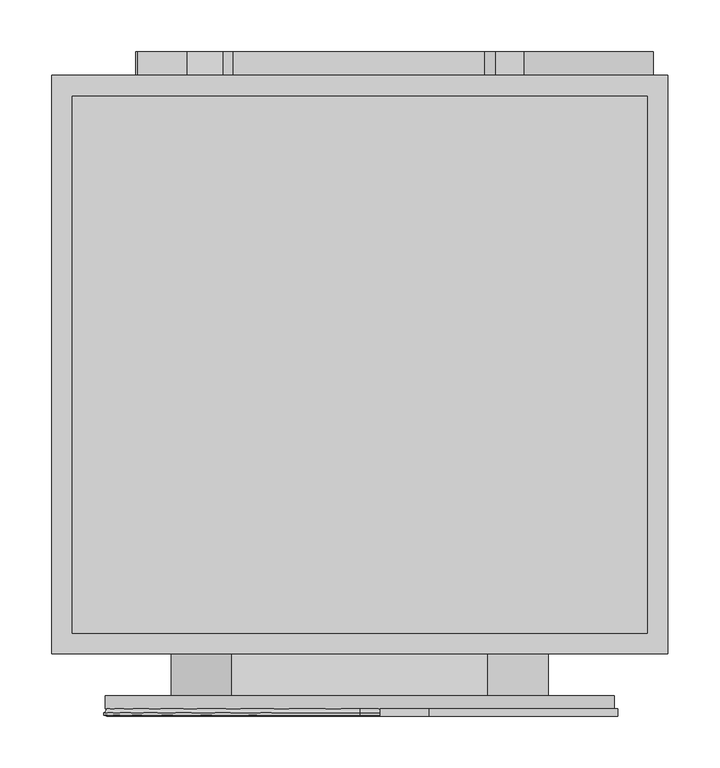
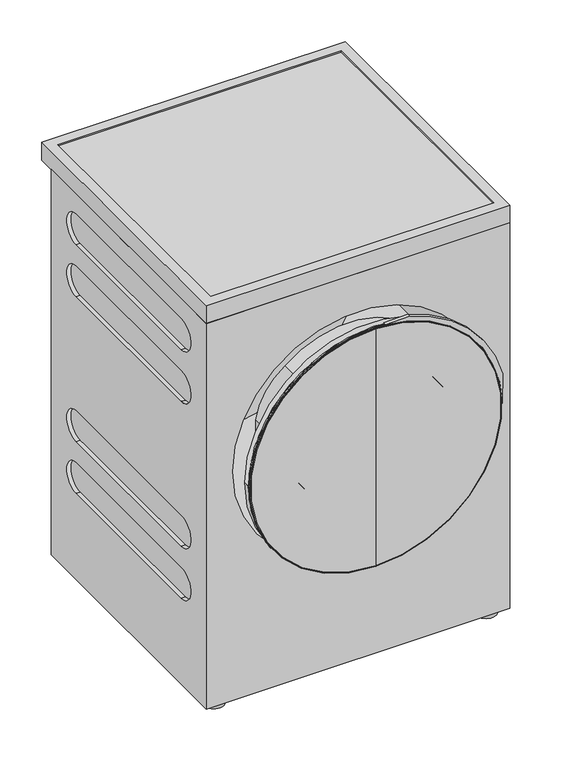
"""IFC4 building model written with IfcOpenShell, lengths in millimetres: proxy geometry, 12695720_AUS_TQ1000WP_LW : 12Q10001_AUS_12695720_TQ1000WP_LW."""

from ifc_helpers import new_model, si_unit, point, frame, frame_2d, origin, origin_with_axes, place, context, project, spatial, polyline, circle_curve, ellipse_curve, trimmed, segment, composite_curve, outline, extrude, source, transform, mapped, element, save
from ifc_brep_helpers import plane_surface, cylinder_surface, revolved_surface, advanced_brep


def specialty_equipment_69af399f(model_context):
    return source(origin(), model_context, "Body", "SolidModel", [
        advanced_brep(
        [(298.0, -582.3, 813.1000123), (298.0, -582.3, 13.4000001), (298.0, -55.0, 13.4000001), (298.0, -55.0, 813.1000123), (298.0, -499.7686844, 708.2163696), (298.0, -499.7686844, 771.6257324), (298.0, -139.0, 771.6257324), (298.0, -139.0, 708.2163696), (298.0, -499.7686844, 600.3451244), (298.0, -499.7686844, 663.3451244), (298.0, -139.0, 663.3451244), (298.0, -139.0, 600.3451244), (298.0, -499.7686844, 300.0501771), (298.0, -499.7686844, 363.4595399), (298.0, -139.0, 363.4595399), (298.0, -139.0, 300.0501771), (298.0, -499.7686844, 255.704727), (298.0, -139.0, 255.704727), (298.0, -139.0, 192.2953642), (298.0, -499.7686844, 192.2953642), (-298.0, -582.3, 813.1000123), (-298.0, -55.0, 813.1000123), (-298.0, -55.0, 13.4000001), (-298.0, -582.3, 13.4000001), (-298.0, -497.9927606, 771.5093751), (-298.0, -497.9927606, 708.1000123), (-298.0, -140.0, 708.1000123), (-298.0, -140.0, 771.5093751), (-298.0, -497.9927606, 663.7047093), (-298.0, -497.9927606, 600.2953466), (-298.0, -140.0, 600.2953466), (-298.0, -140.0, 663.7047093), (-298.0, -497.9927606, 363.5093178), (-298.0, -497.9927606, 300.099955), (-298.0, -140.0, 300.099955), (-298.0, -140.0, 363.5093178), (-298.0, -497.9927606, 255.704727), (-298.0, -497.9927606, 192.2953642), (-298.0, -140.0, 192.2953642), (-298.0, -140.0, 255.704727), (246.0, -582.3, 487.4), (-246.0, -582.3, 487.4), (-246.0, -154.1771988, 487.4), (246.0, -154.1771988, 487.4), (-289.8140699, -497.9927606, 771.5093751), (-289.8140699, -140.0, 771.5093751), (-289.8140699, -140.0, 708.1000123), (-289.8140699, -497.9927606, 708.1000123), (-289.8140699, -497.9927606, 663.7047093), (-289.8140699, -140.0, 663.7047093), (-289.8140699, -140.0, 600.2953466), (-289.8140699, -497.9927606, 600.2953466), (-289.8140699, -497.9927606, 363.5093178), (-289.8140699, -140.0, 363.5093178), (-289.8140699, -140.0, 300.099955), (-289.8140699, -497.9927606, 300.099955), (-289.8140699, -497.9927606, 255.704727), (-289.8140699, -140.0, 255.704727), (-289.8140699, -140.0, 192.2953642), (-289.8140699, -497.9927606, 192.2953642), (289.8140699, -499.7686844, 771.6257324), (289.8140699, -499.7686844, 708.2163696), (289.8140699, -139.0, 708.2163696), (289.8140699, -139.0, 771.6257324), (289.8140699, -499.7686844, 663.3451244), (289.8140699, -499.7686844, 600.3451244), (289.8140699, -139.0, 600.3451244), (289.8140699, -139.0, 663.3451244), (289.8140699, -499.7686844, 363.4595399), (289.8140699, -499.7686844, 300.0501771), (289.8140699, -139.0, 300.0501771), (289.8140699, -139.0, 363.4595399), (289.8140699, -499.7686844, 255.704727), (289.8140699, -499.7686844, 192.2953642), (289.8140699, -139.0, 192.2953642), (289.8140699, -139.0, 255.704727)],
        [
            (0, 1),
            (1, 2),
            (2, 3),
            (3, 0),
            (4, 5, circle_curve(frame((298.0, -499.7686844, 739.921051), z_axis=(-1.0, 0.0, 0.0), x_axis=(0.0, 1.0, 0.0)), 31.7046814)),
            (5, 6),
            (6, 7, circle_curve(frame((298.0, -139.0, 739.921051), z_axis=(-1.0, 0.0, 0.0), x_axis=(0.0, 1.0, 0.0)), 31.7046814)),
            (7, 4),
            (8, 9, circle_curve(frame((298.0, -499.7686844, 631.8451244), z_axis=(-1.0, 0.0, 0.0), x_axis=(0.0, 1.0, 0.0)), 31.5)),
            (9, 10),
            (10, 11, circle_curve(frame((298.0, -139.0, 631.8451244), z_axis=(-1.0, 0.0, 0.0), x_axis=(0.0, 1.0, 0.0)), 31.5)),
            (11, 8),
            (12, 13, circle_curve(frame((298.0, -499.7686844, 331.7548585), z_axis=(-1.0, 0.0, 0.0), x_axis=(0.0, 1.0, 0.0)), 31.7046814)),
            (13, 14),
            (14, 15, circle_curve(frame((298.0, -139.0, 331.7548585), z_axis=(-1.0, 0.0, 0.0), x_axis=(0.0, 1.0, 0.0)), 31.7046814)),
            (15, 12),
            (16, 17),
            (17, 18, circle_curve(frame((298.0, -139.0, 224.0000456), z_axis=(-1.0, 0.0, 0.0), x_axis=(0.0, 1.0, 0.0)), 31.7046814)),
            (18, 19),
            (19, 16, circle_curve(frame((298.0, -499.7686844, 224.0000456), z_axis=(-1.0, 0.0, 0.0), x_axis=(0.0, 1.0, 0.0)), 31.7046814)),
            (20, 21),
            (21, 22),
            (22, 23),
            (23, 20),
            (24, 25, circle_curve(frame((-298.0, -497.9927606, 739.8046937), z_axis=(1.0, 0.0, 0.0), x_axis=(0.0, 1.0, 0.0)), 31.7046814)),
            (25, 26),
            (26, 27, circle_curve(frame((-298.0, -140.0, 739.8046937), z_axis=(1.0, 0.0, 0.0), x_axis=(0.0, 1.0, 0.0)), 31.7046814)),
            (27, 24),
            (28, 29, circle_curve(frame((-298.0, -497.9927606, 632.000028), z_axis=(1.0, 0.0, 0.0), x_axis=(0.0, 1.0, 0.0)), 31.7046814)),
            (29, 30),
            (30, 31, circle_curve(frame((-298.0, -140.0, 632.000028), z_axis=(1.0, 0.0, 0.0), x_axis=(0.0, 1.0, 0.0)), 31.7046814)),
            (31, 28),
            (32, 33, circle_curve(frame((-298.0, -497.9927606, 331.8046364), z_axis=(1.0, 0.0, 0.0), x_axis=(0.0, 1.0, 0.0)), 31.7046814)),
            (33, 34),
            (34, 35, circle_curve(frame((-298.0, -140.0, 331.8046364), z_axis=(1.0, 0.0, 0.0), x_axis=(0.0, 1.0, 0.0)), 31.7046814)),
            (35, 32),
            (36, 37, circle_curve(frame((-298.0, -497.9927606, 224.0000456), z_axis=(1.0, 0.0, 0.0), x_axis=(0.0, 1.0, 0.0)), 31.7046814)),
            (37, 38),
            (38, 39, circle_curve(frame((-298.0, -140.0, 224.0000456), z_axis=(1.0, 0.0, 0.0), x_axis=(0.0, 1.0, 0.0)), 31.7046814)),
            (39, 36),
            (0, 20),
            (23, 1),
            (40, 41, circle_curve(frame((0.0, -582.3, 487.4), z_axis=(0.0, 1.0, 0.0), x_axis=(1.0, 0.0, 0.0)), 246.0)),
            (41, 40, circle_curve(frame((0.0, -582.3, 487.4), z_axis=(0.0, 1.0, 0.0), x_axis=(1.0, 0.0, 0.0)), 246.0)),
            (22, 2),
            (21, 3),
            (42, 43, circle_curve(frame((0.0, -154.1771988, 487.4), z_axis=(0.0, -1.0, 0.0), x_axis=(1.0, 0.0, 0.0)), 246.0)),
            (43, 42, circle_curve(frame((0.0, -154.1771988, 487.4), z_axis=(0.0, -1.0, 0.0), x_axis=(1.0, 0.0, 0.0)), 246.0)),
            (42, 41),
            (40, 43),
            (44, 45),
            (45, 46, circle_curve(frame((-289.8140699, -140.0, 739.8046937), z_axis=(-1.0, 0.0, 0.0), x_axis=(0.0, 1.0, 0.0)), 31.7046814)),
            (46, 47),
            (47, 44, circle_curve(frame((-289.8140699, -497.9927606, 739.8046937), z_axis=(-1.0, 0.0, 0.0), x_axis=(0.0, 1.0, 0.0)), 31.7046814)),
            (48, 49),
            (49, 50, circle_curve(frame((-289.8140699, -140.0, 632.000028), z_axis=(-1.0, 0.0, 0.0), x_axis=(0.0, 1.0, 0.0)), 31.7046814)),
            (50, 51),
            (51, 48, circle_curve(frame((-289.8140699, -497.9927606, 632.000028), z_axis=(-1.0, 0.0, 0.0), x_axis=(0.0, 1.0, 0.0)), 31.7046814)),
            (52, 53),
            (53, 54, circle_curve(frame((-289.8140699, -140.0, 331.8046364), z_axis=(-1.0, 0.0, 0.0), x_axis=(0.0, 1.0, 0.0)), 31.7046814)),
            (54, 55),
            (55, 52, circle_curve(frame((-289.8140699, -497.9927606, 331.8046364), z_axis=(-1.0, 0.0, 0.0), x_axis=(0.0, 1.0, 0.0)), 31.7046814)),
            (56, 57),
            (57, 58, circle_curve(frame((-289.8140699, -140.0, 224.0000456), z_axis=(-1.0, 0.0, 0.0), x_axis=(0.0, 1.0, 0.0)), 31.7046814)),
            (58, 59),
            (59, 56, circle_curve(frame((-289.8140699, -497.9927606, 224.0000456), z_axis=(-1.0, 0.0, 0.0), x_axis=(0.0, 1.0, 0.0)), 31.7046814)),
            (47, 25),
            (24, 44),
            (46, 26),
            (45, 27),
            (51, 29),
            (28, 48),
            (50, 30),
            (49, 31),
            (55, 33),
            (32, 52),
            (54, 34),
            (53, 35),
            (59, 37),
            (36, 56),
            (58, 38),
            (57, 39),
            (60, 61, circle_curve(frame((289.8140699, -499.7686844, 739.921051), z_axis=(1.0, 0.0, 0.0), x_axis=(0.0, 1.0, 0.0)), 31.7046814)),
            (61, 62),
            (62, 63, circle_curve(frame((289.8140699, -139.0, 739.921051), z_axis=(1.0, 0.0, 0.0), x_axis=(0.0, 1.0, 0.0)), 31.7046814)),
            (63, 60),
            (64, 65, circle_curve(frame((289.8140699, -499.7686844, 631.8451244), z_axis=(1.0, 0.0, 0.0), x_axis=(0.0, 1.0, 0.0)), 31.5)),
            (65, 66),
            (66, 67, circle_curve(frame((289.8140699, -139.0, 631.8451244), z_axis=(1.0, 0.0, 0.0), x_axis=(0.0, 1.0, 0.0)), 31.5)),
            (67, 64),
            (68, 69, circle_curve(frame((289.8140699, -499.7686844, 331.7548585), z_axis=(1.0, 0.0, 0.0), x_axis=(0.0, 1.0, 0.0)), 31.7046814)),
            (69, 70),
            (70, 71, circle_curve(frame((289.8140699, -139.0, 331.7548585), z_axis=(1.0, 0.0, 0.0), x_axis=(0.0, 1.0, 0.0)), 31.7046814)),
            (71, 68),
            (72, 73, circle_curve(frame((289.8140699, -499.7686844, 224.0000456), z_axis=(1.0, 0.0, 0.0), x_axis=(0.0, 1.0, 0.0)), 31.7046814)),
            (73, 74),
            (74, 75, circle_curve(frame((289.8140699, -139.0, 224.0000456), z_axis=(1.0, 0.0, 0.0), x_axis=(0.0, 1.0, 0.0)), 31.7046814)),
            (75, 72),
            (60, 5),
            (4, 61),
            (7, 62),
            (6, 63),
            (64, 9),
            (8, 65),
            (11, 66),
            (10, 67),
            (68, 13),
            (12, 69),
            (15, 70),
            (14, 71),
            (75, 17),
            (16, 72),
            (74, 18),
            (73, 19),
        ],
        [
            plane_surface(frame((298.0, -582.3, 813.1000123), z_axis=(1.0, 0.0, 0.0), x_axis=(0.0, 0.0, -1.0))),
            plane_surface(frame((-298.0, -582.3, 813.1000123), z_axis=(-1.0, 0.0, 0.0), x_axis=(0.0, 0.0, 1.0))),
            plane_surface(frame((298.0, -582.3, 813.1000123), z_axis=(0.0, -1.0, 0.0), x_axis=(-1.0, 0.0, 0.0))),
            plane_surface(frame((298.0, -582.3, 13.4000001), z_axis=(0.0, 0.0, -1.0), x_axis=(-1.0, 0.0, 0.0))),
            plane_surface(frame((298.0, -55.0, 13.4000001), z_axis=(0.0, 1.0, 0.0), x_axis=(-1.0, 0.0, 0.0))),
            plane_surface(frame((298.0, -55.0, 813.1000123), z_axis=(0.0, 0.0, 1.0), x_axis=(-1.0, 0.0, 0.0))),
            plane_surface(frame((246.0, -154.1771988, 487.4), z_axis=(0.0, -1.0, 0.0), x_axis=(0.0, 0.0, -1.0))),
            revolved_surface(polyline([(246.0, -582.3, 487.4), (246.0, -154.1771988, 487.4)]), (0.0, -154.1771988, 487.4), (0.0, -1.0, 0.0)),
            plane_surface(frame((-289.8140699, -466.2880792, 739.8046937), z_axis=(-1.0, 0.0, 0.0), x_axis=(0.0, 0.0, 1.0))),
            revolved_surface(polyline([(-289.8140699, -466.28807919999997, 739.8046937), (-298.0, -466.28807919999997, 739.8046937)]), (-415.2541667, -497.9927606, 739.8046937), (1.0, 0.0, 0.0)),
            plane_surface(frame((-289.8140699, -497.9927606, 708.1000123), z_axis=(0.0, 0.0, 1.0), x_axis=(-1.0, 0.0, 0.0))),
            revolved_surface(polyline([(-289.8140699, -108.2953186, 739.8046937), (-298.0, -108.2953186, 739.8046937)]), (-415.2541667, -140.0, 739.8046937), (1.0, 0.0, 0.0)),
            plane_surface(frame((-289.8140699, -140.0, 771.5093751), z_axis=(0.0, 0.0, -1.0), x_axis=(-1.0, 0.0, 0.0))),
            revolved_surface(polyline([(-289.8140699, -466.28807919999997, 632.000028), (-298.0, -466.28807919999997, 632.000028)]), (0.0, -497.9927606, 632.000028), (1.0, 0.0, 0.0)),
            plane_surface(frame((-289.8140699, -497.9927606, 600.2953466), z_axis=(0.0, 0.0, 1.0), x_axis=(-1.0, 0.0, 0.0))),
            revolved_surface(polyline([(-289.8140699, -108.2953186, 632.000028), (-298.0, -108.2953186, 632.000028)]), (0.0, -140.0, 632.000028), (1.0, 0.0, 0.0)),
            plane_surface(frame((-289.8140699, -140.0, 663.7047093), z_axis=(0.0, 0.0, -1.0), x_axis=(-1.0, 0.0, 0.0))),
            revolved_surface(polyline([(-289.8140699, -466.28807919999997, 331.8046364), (-298.0, -466.28807919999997, 331.8046364)]), (0.0, -497.9927606, 331.8046364), (1.0, 0.0, 0.0)),
            plane_surface(frame((-289.8140699, -497.9927606, 300.099955), z_axis=(0.0, 0.0, 1.0), x_axis=(-1.0, 0.0, 0.0))),
            revolved_surface(polyline([(-289.8140699, -108.2953186, 331.8046364), (-298.0, -108.2953186, 331.8046364)]), (0.0, -140.0, 331.8046364), (1.0, 0.0, 0.0)),
            plane_surface(frame((-289.8140699, -140.0, 363.5093178), z_axis=(0.0, 0.0, -1.0), x_axis=(-1.0, 0.0, 0.0))),
            revolved_surface(polyline([(-289.8140699, -466.28807919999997, 224.0000456), (-298.0, -466.28807919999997, 224.0000456)]), (0.0, -497.9927606, 224.0000456), (1.0, 0.0, 0.0)),
            plane_surface(frame((-289.8140699, -497.9927606, 192.2953642), z_axis=(0.0, 0.0, 1.0), x_axis=(-1.0, 0.0, 0.0))),
            revolved_surface(polyline([(-289.8140699, -108.2953186, 224.0000456), (-298.0, -108.2953186, 224.0000456)]), (0.0, -140.0, 224.0000456), (1.0, 0.0, 0.0)),
            plane_surface(frame((-289.8140699, -140.0, 255.704727), z_axis=(0.0, 0.0, -1.0), x_axis=(-1.0, 0.0, 0.0))),
            plane_surface(frame((289.8140699, -139.0, 771.6257324), z_axis=(1.0, 0.0, 0.0), x_axis=(0.0, 1.0, 0.0))),
            revolved_surface(polyline([(289.8140699, -468.06400299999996, 739.921051), (298.0, -468.06400299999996, 739.921051)]), (305.7094305, -499.7686844, 739.921051), (-1.0, 0.0, 0.0)),
            plane_surface(frame((289.8140699, -139.0, 708.2163696), z_axis=(0.0, 0.0, 1.0), x_axis=(1.0, 0.0, 0.0))),
            revolved_surface(polyline([(289.8140699, -107.2953186, 739.921051), (298.0, -107.2953186, 739.921051)]), (305.7094305, -139.0, 739.921051), (-1.0, 0.0, 0.0)),
            plane_surface(frame((289.8140699, -499.7686844, 771.6257324), z_axis=(0.0, 0.0, -1.0), x_axis=(1.0, 0.0, 0.0))),
            revolved_surface(polyline([(289.8140699, -468.2686844, 631.8451244), (298.0, -468.2686844, 631.8451244)]), (0.0, -499.7686844, 631.8451244), (-1.0, 0.0, 0.0)),
            plane_surface(frame((289.8140699, -139.0, 600.3451244), z_axis=(0.0, 0.0, 1.0), x_axis=(1.0, 0.0, 0.0))),
            revolved_surface(polyline([(289.8140699, -107.5, 631.8451244), (298.0, -107.5, 631.8451244)]), (0.0, -139.0, 631.8451244), (-1.0, 0.0, 0.0)),
            plane_surface(frame((289.8140699, -499.7686844, 663.3451244), z_axis=(0.0, 0.0, -1.0), x_axis=(1.0, 0.0, 0.0))),
            revolved_surface(polyline([(289.8140699, -468.06400299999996, 331.7548585), (298.0, -468.06400299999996, 331.7548585)]), (0.0, -499.7686844, 331.7548585), (-1.0, 0.0, 0.0)),
            plane_surface(frame((289.8140699, -139.0, 300.0501771), z_axis=(0.0, 0.0, 1.0), x_axis=(1.0, 0.0, 0.0))),
            revolved_surface(polyline([(289.8140699, -107.2953186, 331.7548585), (298.0, -107.2953186, 331.7548585)]), (0.0, -139.0, 331.7548585), (-1.0, 0.0, 0.0)),
            plane_surface(frame((289.8140699, -499.7686844, 363.4595399), z_axis=(0.0, 0.0, -1.0), x_axis=(1.0, 0.0, 0.0))),
            plane_surface(frame((289.8140699, -499.7686844, 255.704727), z_axis=(0.0, 0.0, -1.0), x_axis=(1.0, 0.0, 0.0))),
            revolved_surface(polyline([(289.8140699, -107.2953186, 224.0000456), (298.0, -107.2953186, 224.0000456)]), (0.0, -139.0, 224.0000456), (-1.0, 0.0, 0.0)),
            plane_surface(frame((289.8140699, -139.0, 192.2953642), z_axis=(0.0, 0.0, 1.0), x_axis=(1.0, 0.0, 0.0))),
            revolved_surface(polyline([(289.8140699, -468.06400299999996, 224.0000456), (298.0, -468.06400299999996, 224.0000456)]), (0.0, -499.7686844, 224.0000456), (-1.0, 0.0, 0.0)),
        ],
        [
            (0, [[1, 2, 3, 4], [5, 6, 7, 8], [9, 10, 11, 12], [13, 14, 15, 16], [17, 18, 19, 20]]),
            (1, [[21, 22, 23, 24], [25, 26, 27, 28], [29, 30, 31, 32], [33, 34, 35, 36], [37, 38, 39, 40]]),
            (2, [[-1, 41, -24, 42], [43, 44]]),
            (3, [[-2, -42, -23, 45]]),
            (4, [[-3, -45, -22, 46]]),
            (5, [[-4, -46, -21, -41]]),
            (6, [[47, 48]]),
            (7, [[-47, 49, -43, 50]]),
            (7, [[-48, -50, -44, -49]]),
            (8, [[51, 52, 53, 54]]),
            (8, [[55, 56, 57, 58]]),
            (8, [[59, 60, 61, 62]]),
            (8, [[63, 64, 65, 66]]),
            (9, [[-54, 67, -25, 68]]),
            (10, [[-53, 69, -26, -67]]),
            (11, [[-52, 70, -27, -69]]),
            (12, [[-51, -68, -28, -70]]),
            (13, [[-58, 71, -29, 72]]),
            (14, [[-57, 73, -30, -71]]),
            (15, [[-56, 74, -31, -73]]),
            (16, [[-55, -72, -32, -74]]),
            (17, [[-62, 75, -33, 76]]),
            (18, [[-61, 77, -34, -75]]),
            (19, [[-60, 78, -35, -77]]),
            (20, [[-59, -76, -36, -78]]),
            (21, [[-66, 79, -37, 80]]),
            (22, [[-65, 81, -38, -79]]),
            (23, [[-64, 82, -39, -81]]),
            (24, [[-63, -80, -40, -82]]),
            (25, [[83, 84, 85, 86]]),
            (25, [[87, 88, 89, 90]]),
            (25, [[91, 92, 93, 94]]),
            (25, [[95, 96, 97, 98]]),
            (26, [[-83, 99, -5, 100]]),
            (27, [[-84, -100, -8, 101]]),
            (28, [[-85, -101, -7, 102]]),
            (29, [[-86, -102, -6, -99]]),
            (30, [[-87, 103, -9, 104]]),
            (31, [[-88, -104, -12, 105]]),
            (32, [[-89, -105, -11, 106]]),
            (33, [[-90, -106, -10, -103]]),
            (34, [[-91, 107, -13, 108]]),
            (35, [[-92, -108, -16, 109]]),
            (36, [[-93, -109, -15, 110]]),
            (37, [[-94, -110, -14, -107]]),
            (38, [[-98, 111, -17, 112]]),
            (39, [[-97, 113, -18, -111]]),
            (40, [[-96, 114, -19, -113]]),
            (41, [[-95, -112, -20, -114]]),
        ],
    ),
        extrude(outline(composite_curve([segment(trimmed(circle_curve(frame_2d((-267.5, -554.3000005)), 10.0), [point((-277.5, -554.3000005))], [point((-257.5, -554.3000005))], False, "CARTESIAN"), True, "CONTINUOUS"), segment(trimmed(circle_curve(frame_2d((-267.5, -554.3000005)), 10.0), [point((-257.5, -554.3000005))], [point((-277.5, -554.3000005))], False, "CARTESIAN"), True, "CONTINUOUS")], self_intersect=False)), frame((0.0, 0.0, 7.7500005), z_axis=(0.0, 0.0, 1.0), x_axis=(1.0, 0.0, 0.0)), (0.0, 0.0, 1.0), 5.6499996),
        extrude(outline(composite_curve([segment(trimmed(circle_curve(frame_2d((267.5, -554.3000005)), 10.0), [point((257.5, -554.3000005))], [point((277.5, -554.3000005))], False, "CARTESIAN"), True, "CONTINUOUS"), segment(trimmed(circle_curve(frame_2d((267.5, -554.3000005)), 10.0), [point((277.5, -554.3000005))], [point((257.5, -554.3000005))], False, "CARTESIAN"), True, "CONTINUOUS")], self_intersect=False)), frame((0.0, 0.0, 7.7500005), z_axis=(0.0, 0.0, 1.0), x_axis=(1.0, 0.0, 0.0)), (0.0, 0.0, 1.0), 5.6499996),
        extrude(outline(composite_curve([segment(trimmed(circle_curve(frame_2d((-267.5, -84.0)), 10.0), [point((-277.5, -84.0))], [point((-257.5, -84.0))], False, "CARTESIAN"), True, "CONTINUOUS"), segment(trimmed(circle_curve(frame_2d((-267.5, -84.0)), 10.0), [point((-257.5, -84.0))], [point((-277.5, -84.0))], False, "CARTESIAN"), True, "CONTINUOUS")], self_intersect=False)), frame((0.0, 0.0, 7.7500005), z_axis=(0.0, 0.0, 1.0), x_axis=(1.0, 0.0, 0.0)), (0.0, 0.0, 1.0), 5.6499996),
        extrude(outline(composite_curve([segment(trimmed(circle_curve(frame_2d((267.5, -84.0)), 10.0), [point((257.5, -84.0))], [point((277.5, -84.0))], False, "CARTESIAN"), True, "CONTINUOUS"), segment(trimmed(circle_curve(frame_2d((267.5, -84.0)), 10.0), [point((277.5, -84.0))], [point((257.5, -84.0))], False, "CARTESIAN"), True, "CONTINUOUS")], self_intersect=False)), frame((0.0, 0.0, 7.7500005), z_axis=(0.0, 0.0, 1.0), x_axis=(1.0, 0.0, 0.0)), (0.0, 0.0, 1.0), 5.6499996),
        extrude(outline(composite_curve([segment(trimmed(circle_curve(frame_2d((-267.5, -554.3000005)), 20.0), [point((-287.5, -554.3000005))], [point((-247.5, -554.3000005))], False, "CARTESIAN"), True, "CONTINUOUS"), segment(trimmed(circle_curve(frame_2d((-267.5, -554.3000005)), 20.0), [point((-247.5, -554.3000005))], [point((-287.5, -554.3000005))], False, "CARTESIAN"), True, "CONTINUOUS")], self_intersect=False)), origin_with_axes(), (0.0, 0.0, 1.0), 7.7500005),
        extrude(outline(composite_curve([segment(trimmed(circle_curve(frame_2d((267.5, -554.3000005)), 20.0), [point((247.5, -554.3000005))], [point((287.5, -554.3000005))], False, "CARTESIAN"), True, "CONTINUOUS"), segment(trimmed(circle_curve(frame_2d((267.5, -554.3000005)), 20.0), [point((287.5, -554.3000005))], [point((247.5, -554.3000005))], False, "CARTESIAN"), True, "CONTINUOUS")], self_intersect=False)), origin_with_axes(), (0.0, 0.0, 1.0), 7.7500005),
        extrude(outline(composite_curve([segment(trimmed(circle_curve(frame_2d((267.5, -84.0)), 20.0), [point((247.5, -84.0))], [point((287.5, -84.0))], False, "CARTESIAN"), True, "CONTINUOUS"), segment(trimmed(circle_curve(frame_2d((267.5, -84.0)), 20.0), [point((287.5, -84.0))], [point((247.5, -84.0))], False, "CARTESIAN"), True, "CONTINUOUS")], self_intersect=False)), origin_with_axes(), (0.0, 0.0, 1.0), 7.7500005),
        extrude(outline(composite_curve([segment(trimmed(circle_curve(frame_2d((-267.5, -84.0)), 20.0), [point((-287.5, -84.0))], [point((-247.5, -84.0))], False, "CARTESIAN"), True, "CONTINUOUS"), segment(trimmed(circle_curve(frame_2d((-267.5, -84.0)), 20.0), [point((-247.5, -84.0))], [point((-287.5, -84.0))], False, "CARTESIAN"), True, "CONTINUOUS")], self_intersect=False)), origin_with_axes(), (0.0, 0.0, 1.0), 7.7500005),
        extrude(outline(polyline([(298.0, -22.987793), (298.0, -582.3), (-298.0, -582.3), (-298.0, -22.987793), (298.0, -22.987793)]), holes=[polyline([(278.0, -42.987793), (-278.0, -42.987793), (-278.0, -562.3), (278.0, -562.3), (278.0, -42.987793)])]), frame((0.0, 0.0, 813.1000123), z_axis=(0.0, 0.0, 1.0), x_axis=(1.0, 0.0, 0.0)), (0.0, 0.0, 1.0), 37.0),
        extrude(outline(polyline([(278.0, -42.987793), (278.0, -562.3), (-278.0, -562.3), (-278.0, -42.987793), (278.0, -42.987793)])), frame((0.0, 0.0, 813.1000123), z_axis=(0.0, 0.0, 1.0), x_axis=(1.0, 0.0, 0.0)), (0.0, 0.0, 1.0), 34.5),
        extrude(outline(composite_curve([segment(trimmed(circle_curve(frame_2d((517.8969414, 0.0)), 126.4382924), [point((611.8698895, -84.5915292))], [point((507.3227967, -125.9953541))], False, "CARTESIAN"), True, "CONTINUOUS"), segment(trimmed(circle_curve(frame_2d((508.6329094, -110.3848136)), 15.6654195), [point((507.3227967, -125.9953541))], [point((492.9856476, -109.6307798))], False, "CARTESIAN"), True, "CONTINUOUS"), segment(trimmed(circle_curve(frame_2d((1301.0395164, -36.4188544)), 811.3636921), [point((492.9856476, -109.6307798))], [point((503.7696698, 114.1528313))], False, "CARTESIAN"), True, "CONTINUOUS"), segment(trimmed(circle_curve(frame_2d((516.4543242, 113.7376982)), 12.6914456), [point((503.7696698, 114.1528313))], [point((516.2933624, 126.4281231))], False, "CARTESIAN"), True, "CONTINUOUS"), segment(trimmed(circle_curve(frame_2d((517.8969414, 0.0)), 126.4382924), [point((516.2933624, 126.4281231))], [point((611.8698895, 84.5915292))], False, "CARTESIAN"), True, "CONTINUOUS"), segment(trimmed(circle_curve(frame_2d((517.8969414, 0.0)), 126.4382924), [point((611.8698895, 84.5915292))], [point((611.8698895, -84.5915292))], False, "CARTESIAN"), True, "CONTINUOUS")], self_intersect=False)), frame((0.0, -55.0, 0.0), z_axis=(0.0, 1.0, 0.0), x_axis=(0.0, 0.0, 1.0)), (0.0, 0.0, 1.0), 31.5),
        extrude(outline(composite_curve([segment(trimmed(circle_curve(frame_2d((463.9458725, -122.4246954)), 9.7949585), [point((473.7290955, -122.9040298))], [point((460.5556647, -131.6142386))], False, "CARTESIAN"), True, "CONTINUOUS"), segment(polyline([(460.5556647, -131.6142386), (315.4007213, -78.0636519)]), True, "CONTINUOUS"), segment(trimmed(circle_curve(frame_2d((310.017704, -111.0867426)), 33.4589509), [point((315.4007213, -78.0636519))], [point((277.4994507, -118.9648514))], True, "CARTESIAN"), True, "CONTINUOUS"), segment(polyline([(277.4994507, -118.9648514), (292.1112469, -166.927293), (292.1112469, -214.927293)]), True, "CONTINUOUS"), segment(trimmed(circle_curve(frame_2d((290.1112469, -214.927293)), 2.0), [point((292.1112469, -214.927293))], [point((290.1112469, -216.927293))], False, "CARTESIAN"), True, "CONTINUOUS"), segment(polyline([(290.1112469, -216.927293), (243.2681094, -216.927293)]), True, "CONTINUOUS"), segment(trimmed(circle_curve(frame_2d((243.2681094, -214.927293)), 2.0), [point((243.2681094, -216.927293))], [point((241.5315616, -215.9194631))], False, "CARTESIAN"), True, "CONTINUOUS"), segment(trimmed(circle_curve(frame_2d((416.3797578, -116.0205993)), 201.3744639), [point((241.5315616, -215.9194631))], [point((215.495832, -101.9734268))], False, "CARTESIAN"), True, "CONTINUOUS"), segment(polyline([(215.495832, -101.9734268), (219.6294726, -42.8596125)]), True, "CONTINUOUS"), segment(trimmed(circle_curve(frame_2d((205.2856225, -50.1502689)), 16.0903606), [point((219.6294726, -42.8596125))], [point((210.9905709, -35.1052275))], True, "CARTESIAN"), True, "CONTINUOUS"), segment(polyline([(210.9905709, -35.1052275), (119.7704518, -0.5153543)]), True, "CONTINUOUS"), segment(trimmed(circle_curve(frame_2d((176.3340837, 148.6537739)), 159.5332982), [point((119.7704518, -0.5153543))], [point((17.4088826, 162.5697258))], False, "CARTESIAN"), True, "CONTINUOUS"), segment(trimmed(circle_curve(frame_2d((135.9577821, 163.8842934)), 118.5561878), [point((17.4088826, 162.5697258))], [point((125.656839, 281.9921265))], False, "CARTESIAN"), True, "CONTINUOUS"), segment(trimmed(circle_curve(frame_2d((146.9011754, 158.8700302)), 124.941476), [point((125.656839, 281.9921265))], [point((271.8426514, 158.8700302))], False, "CARTESIAN"), True, "CONTINUOUS"), segment(polyline([(271.8426514, 158.8700302), (271.8426514, 123.090379)]), True, "CONTINUOUS"), segment(trimmed(circle_curve(frame_2d((296.3308042, 125.3454347)), 24.591765), [point((271.8426514, 123.090379))], [point((300.4982599, 101.109362))], True, "CARTESIAN"), True, "CONTINUOUS"), segment(polyline([(300.4982599, 101.109362), (474.0831737, 130.9577392)]), True, "CONTINUOUS"), segment(trimmed(circle_curve(frame_2d((475.8888824, 121.3307405)), 9.7948807), [point((474.0831737, 130.9577392))], [point((485.6720276, 120.8514099))], False, "CARTESIAN"), True, "CONTINUOUS"), segment(polyline([(485.6720276, 120.8514099), (473.7290955, -122.9040298)]), True, "CONTINUOUS")], self_intersect=False)), frame((0.0, -55.0, 0.0), z_axis=(0.0, 1.0, 0.0), x_axis=(0.0, 0.0, 1.0)), (0.0, 0.0, 1.0), 55.0),
        advanced_brep(
        [(-267.262207, -55.0, 283.6000061), (-267.262207, -55.0, 303.6000061), (-267.262207, -50.0, 283.6000061), (-267.262207, -30.0, 303.6000061), (-267.262207, -50.0, 263.6000061), (-267.262207, -30.0, 263.6000061)],
        [
            (0, 1, circle_curve(frame((-267.262207, -55.0, 293.6000061), z_axis=(0.0, -1.0, 0.0), x_axis=(0.0, 0.0, 1.0)), 10.0)),
            (1, 0, circle_curve(frame((-267.262207, -55.0, 293.6000061), z_axis=(0.0, -1.0, 0.0), x_axis=(0.0, 0.0, 1.0)), 10.0)),
            (0, 2),
            (2, 3, ellipse_curve(frame((-267.262207, -40.0, 293.6000061), z_axis=(0.0, -0.7071067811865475, 0.7071067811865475), x_axis=(0.0, -0.7071067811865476, -0.7071067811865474)), 14.1421356, 10.0)),
            (3, 1),
            (3, 2, ellipse_curve(frame((-267.262207, -40.0, 293.6000061), z_axis=(0.0, -0.7071067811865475, 0.7071067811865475), x_axis=(0.0, -0.7071067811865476, -0.7071067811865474)), 14.1421356, 10.0)),
            (4, 5, circle_curve(frame((-267.262207, -40.0, 263.6000061), z_axis=(0.0, 0.0, -1.0), x_axis=(0.0, 1.0, 0.0)), 10.0)),
            (5, 4, circle_curve(frame((-267.262207, -40.0, 263.6000061), z_axis=(0.0, 0.0, -1.0), x_axis=(0.0, 1.0, 0.0)), 10.0)),
            (2, 4),
            (5, 3),
        ],
        [
            plane_surface(frame((0.0, -55.0, 293.6000061), z_axis=(0.0, -1.0, 0.0), x_axis=(1.0, 0.0, 0.0))),
            cylinder_surface(frame((-267.262207, -55.0, 293.6000061), z_axis=(0.0, -1.0, 0.0), x_axis=(0.0, 0.0, 1.0)), 10.0),
            plane_surface(frame((0.0, -40.0, 263.6000061), z_axis=(0.0, 0.0, -1.0), x_axis=(1.0, 0.0, 0.0))),
            cylinder_surface(frame((-267.262207, -40.0, 293.6000061), z_axis=(0.0, 0.0, 1.0), x_axis=(0.0, 1.0, 0.0)), 10.0),
        ],
        [
            (0, [[1, 2]]),
            (1, [[-1, 3, 4, 5]]),
            (1, [[-2, -5, 6, -3]]),
            (2, [[7, 8]]),
            (3, [[-4, 9, -8, 10]]),
            (3, [[-6, -10, -7, -9]]),
        ],
    ),
        extrude(outline(polyline([(-261.3603988, -43.8841849), (-267.262207, -43.8841849), (-267.262207, -42.8796218), (-262.3649619, -42.8796218), (-262.3649619, -40.2426437), (-266.8854959, -40.2426437), (-266.8854959, -39.2380806), (-262.3649619, -39.2380806), (-262.3649619, -36.8522432), (-267.1366366, -36.8522432), (-267.1366366, -35.8476801), (-261.3603988, -35.8476801), (-261.3603988, -43.8841849)])), frame((0.0, 0.0, 262.6000061), z_axis=(0.0, 0.0, 1.0), x_axis=(1.0, 0.0, 0.0)), (0.0, 0.0, 1.0), 1.0),
        extrude(outline(polyline([(-268.7690517, -43.8841849), (-273.7918672, -43.8841849), (-273.7918672, -42.8796218), (-269.7736148, -42.8796218), (-269.7736148, -35.8476801), (-268.7690517, -35.8476801), (-268.7690517, -43.8841849)])), frame((0.0, 0.0, 262.6000061), z_axis=(0.0, 0.0, 1.0), x_axis=(1.0, 0.0, 0.0)), (0.0, 0.0, 1.0), 1.0),
        advanced_brep(
        [(233.1540409, -55.0, 281.7015831), (237.7658885, -55.0, 262.2405744), (233.1540409, -50.0, 281.7015831), (237.7658885, -30.0, 262.2405744), (228.5421932, -50.0, 301.1625919), (228.5421932, -30.0, 301.1625919)],
        [
            (0, 1, circle_curve(frame((235.4599647, -55.0, 271.9710788), z_axis=(0.0, -1.0, 0.0), x_axis=(0.23059238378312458, 0.0, -0.9730504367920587)), 10.0)),
            (1, 0, circle_curve(frame((235.4599647, -55.0, 271.9710788), z_axis=(0.0, -1.0, 0.0), x_axis=(0.23059238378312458, 0.0, -0.9730504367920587)), 10.0)),
            (0, 2),
            (2, 3, ellipse_curve(frame((235.4599647, -40.0, 271.9710788), z_axis=(0.1630534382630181, -0.7071067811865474, -0.6880505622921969), x_axis=(-0.16305343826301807, -0.7071067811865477, 0.6880505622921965)), 14.1421356, 10.0)),
            (3, 1),
            (3, 2, ellipse_curve(frame((235.4599647, -40.0, 271.9710788), z_axis=(0.1630534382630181, -0.7071067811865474, -0.6880505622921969), x_axis=(-0.16305343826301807, -0.7071067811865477, 0.6880505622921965)), 14.1421356, 10.0)),
            (4, 5, circle_curve(frame((228.5421932, -40.0, 301.1625919), z_axis=(-0.23059238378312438, 0.0, 0.9730504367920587), x_axis=(0.0, 1.0, 0.0)), 10.0)),
            (5, 4, circle_curve(frame((228.5421932, -40.0, 301.1625919), z_axis=(-0.23059238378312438, 0.0, 0.9730504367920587), x_axis=(0.0, 1.0, 0.0)), 10.0)),
            (2, 4),
            (5, 3),
        ],
        [
            plane_surface(frame((-24.5996426, -55.0, 210.3424493), z_axis=(0.0, -1.0, 0.0), x_axis=(-0.9730504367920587, 0.0, -0.23059238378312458))),
            cylinder_surface(frame((235.4599647, -55.0, 271.9710788), z_axis=(0.0, -1.0, 0.0), x_axis=(0.23059238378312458, 0.0, -0.9730504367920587)), 10.0),
            plane_surface(frame((-31.5174141, -40.0, 239.5339624), z_axis=(-0.2305923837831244, 0.0, 0.9730504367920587), x_axis=(-0.9730504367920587, 0.0, -0.2305923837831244))),
            cylinder_surface(frame((235.4599647, -40.0, 271.9710788), z_axis=(0.23059238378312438, 0.0, -0.9730504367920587), x_axis=(0.0, 1.0, 0.0)), 10.0),
        ],
        [
            (0, [[1, 2]]),
            (1, [[-1, 3, 4, 5]]),
            (1, [[-2, -5, 6, -3]]),
            (2, [[7, 8]]),
            (3, [[-4, 9, -8, 10]]),
            (3, [[-6, -10, -7, -9]]),
        ],
    ),
        extrude(outline(polyline([(0.0, 0.0), (-3.207931, -8.0365048), (-4.0633793, -8.0365048), (-7.2713102, 0.0), (-6.2098481, 0.0), (-5.2896525, -2.5114078), (-1.9796956, -2.5114078), (-1.0614621, 0.0), (0.0, 0.0)]), holes=[polyline([(-2.3485586, -3.5159709), (-4.9227516, -3.5159709), (-4.1987598, -5.4917424), (-3.6356551, -7.0319417), (-3.1353356, -5.6644017), (-2.3485586, -3.5159709)])]), frame((219.0912361, -44.1252407, 298.9229148), z_axis=(-0.2305923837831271, 0.0, 0.973050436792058), x_axis=(-0.973050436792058, 0.0, -0.2305923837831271)), (0.0, 0.0, 1.0), 1.0),
        extrude(outline(polyline([(0.0, 0.0), (2.1915957, -8.0365048), (1.15564, -8.0365048), (-0.1157602, -2.7547004), (-0.5081677, -1.1242474), (-0.9280437, -2.5663448), (-2.5212179, -8.0365048), (-4.0143284, -8.0365048), (-5.1719304, -4.0712274), (-6.0332647, -1.1242474), (-6.4139, -2.7076115), (-7.6970724, -8.0365048), (-8.7330281, -8.0365048), (-6.5394704, 0.0), (-5.466236, 0.0), (-3.5395153, -6.2000379), (-3.2707162, -7.0652963), (-2.9685625, -6.0234545), (-1.2125391, 0.0), (0.0, 0.0)])), frame((228.6103141, -44.1252407, 301.1787351), z_axis=(-0.2305923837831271, 0.0, 0.973050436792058), x_axis=(-0.973050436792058, 0.0, -0.2305923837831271)), (0.0, 0.0, 1.0), 1.0),
        advanced_brep(
        [(0.0, -635.2368516, 242.8085926), (0.0, -635.2368516, 734.7979489), (0.0, -635.2368516, 488.8032707), (0.0, -639.4398077, 240.937316), (0.0, -639.4398077, 736.6692255), (0.0, -641.7778464, 240.937316), (0.0, -641.7778464, 736.6692255), (0.0, -642.2547882, 241.6184595), (0.0, -642.2547882, 735.988082), (0.0, -642.5692986, 242.7032384), (0.0, -642.5692986, 734.9033031), (0.0, -642.5692986, 488.8032707)],
        [
            (0, 1, circle_curve(frame((0.0, -635.2368516, 488.8032707), z_axis=(0.0, 1.0, 0.0), x_axis=(0.0, 0.0, 1.0)), 245.9946781)),
            (1, 2),
            (2, 0),
            (1, 0, circle_curve(frame((0.0, -635.2368516, 488.8032707), z_axis=(0.0, 1.0, 0.0), x_axis=(0.0, 0.0, 1.0)), 245.9946781)),
            (3, 4, circle_curve(frame((0.0, -639.4398077, 488.8032707), z_axis=(0.0, 1.0, 0.0), x_axis=(0.0, 0.0, 1.0)), 247.8659547)),
            (4, 1),
            (0, 3),
            (4, 3, circle_curve(frame((0.0, -639.4398077, 488.8032707), z_axis=(0.0, 1.0, 0.0), x_axis=(0.0, 0.0, 1.0)), 247.8659547)),
            (5, 6, circle_curve(frame((0.0, -641.7778464, 488.8032707), z_axis=(0.0, 1.0, 0.0), x_axis=(0.0, 0.0, 1.0)), 247.8659547)),
            (6, 4),
            (3, 5),
            (6, 5, circle_curve(frame((0.0, -641.7778464, 488.8032707), z_axis=(0.0, 1.0, 0.0), x_axis=(0.0, 0.0, 1.0)), 247.8659547)),
            (7, 8, circle_curve(frame((0.0, -642.2547882, 488.8032707), z_axis=(0.0, 1.0, 0.0), x_axis=(0.0, 0.0, 1.0)), 247.1848113)),
            (8, 6),
            (5, 7),
            (8, 7, circle_curve(frame((0.0, -642.2547882, 488.8032707), z_axis=(0.0, 1.0, 0.0), x_axis=(0.0, 0.0, 1.0)), 247.1848113)),
            (9, 10, circle_curve(frame((0.0, -642.5692986, 488.8032707), z_axis=(0.0, 1.0, 0.0), x_axis=(0.0, 0.0, 1.0)), 246.1000324)),
            (10, 8),
            (7, 9),
            (10, 9, circle_curve(frame((0.0, -642.5692986, 488.8032707), z_axis=(0.0, 1.0, 0.0), x_axis=(0.0, 0.0, 1.0)), 246.1000324)),
            (11, 10),
            (9, 11),
        ],
        [
            plane_surface(frame((0.0, -635.2368516, 488.8032707), z_axis=(0.0, 1.0, 0.0), x_axis=(0.0, 0.0, 1.0))),
            revolved_surface(polyline([(0.0, -635.2368516, 734.7979489), (0.0, -639.4398077, 736.6692255)]), (0.0, -631.0754395, 488.8032707), (0.0, -1.0, 0.0)),
            cylinder_surface(frame((0.0, -631.0754395, 488.8032707), z_axis=(0.0, -1.0, 0.0), x_axis=(0.0, 0.0, 1.0)), 247.8659547),
            revolved_surface(polyline([(0.0, -641.7778464, 736.6692255), (0.0, -642.2547882, 735.988082)]), (0.0, -631.0754395, 488.8032707), (0.0, -1.0, 0.0)),
            revolved_surface(polyline([(0.0, -642.2547882, 735.988082), (0.0, -642.5692986, 734.9033031)]), (0.0, -631.0754395, 488.8032707), (0.0, -1.0, 0.0)),
            plane_surface(frame((0.0, -642.5692986, 488.8032707), z_axis=(0.0, -1.0, 0.0), x_axis=(0.0, 0.0, 1.0))),
        ],
        [
            (0, [[1, 2, 3]]),
            (0, [[4, -3, -2]]),
            (1, [[5, 6, -1, 7]]),
            (1, [[8, -7, -4, -6]]),
            (2, [[9, 10, -5, 11]]),
            (2, [[12, -11, -8, -10]]),
            (3, [[13, 14, -9, 15]]),
            (3, [[16, -15, -12, -14]]),
            (4, [[17, 18, -13, 19]]),
            (4, [[20, -19, -16, -18]]),
            (5, [[21, -17, 22]]),
            (5, [[-22, -20, -21]]),
        ],
    ),
        extrude(outline(composite_curve([segment(polyline([(466.7368957, 182.3773346), (553.0258628, 182.3773346)]), True, "CONTINUOUS"), segment(trimmed(circle_curve(frame_2d((531.1420231, 47.6688503)), 136.4744598), [point((553.0258628, 182.3773346))], [point((644.4663169, 123.7141172))], False, "CARTESIAN"), True, "CONTINUOUS"), segment(trimmed(circle_curve(frame_2d((501.1288979, 0.0)), 189.3430708), [point((644.4663169, 123.7141172))], [point((644.4663169, -123.7141172))], False, "CARTESIAN"), True, "CONTINUOUS"), segment(trimmed(circle_curve(frame_2d((531.1420231, -47.6688503)), 136.4744598), [point((644.4663169, -123.7141172))], [point((553.0258628, -182.3773346))], False, "CARTESIAN"), True, "CONTINUOUS"), segment(polyline([(553.0258628, -182.3773346), (466.7368957, -182.3773346)]), True, "CONTINUOUS"), segment(trimmed(circle_curve(frame_2d((565.2160979, -15.9821138)), 193.3533624), [point((466.7368957, -182.3773346))], [point((372.5243887, 0.0))], False, "CARTESIAN"), True, "CONTINUOUS"), segment(trimmed(circle_curve(frame_2d((565.2160979, 15.9821138)), 193.3533624), [point((372.5243887, 0.0))], [point((466.7368957, 182.3773346))], False, "CARTESIAN"), True, "CONTINUOUS")], self_intersect=False), holes=[composite_curve([segment(trimmed(circle_curve(frame_2d((601.0274293, 0.0377884)), 206.9745802), [point((402.2003013, -57.4622116))], [point((437.2900995, -126.5661755))], True, "CARTESIAN"), True, "CONTINUOUS"), segment(trimmed(circle_curve(frame_2d((492.5462276, -83.8413745)), 69.8473214), [point((437.2900995, -126.5661755))], [point((507.4119046, -152.0884254))], True, "CARTESIAN"), True, "CONTINUOUS"), segment(trimmed(circle_curve(frame_2d((493.2544917, -10.7770723)), 142.0187693), [point((507.4119046, -152.0884254))], [point((635.1036826, -17.7152195))], True, "CARTESIAN"), True, "CONTINUOUS"), segment(trimmed(circle_curve(frame_2d((272.9191545, 0.0)), 362.6175139), [point((635.1036826, -17.7152195))], [point((635.1036826, 17.7152195))], True, "CARTESIAN"), True, "CONTINUOUS"), segment(trimmed(circle_curve(frame_2d((493.2544917, 10.7770723)), 142.0187693), [point((635.1036826, 17.7152195))], [point((507.4119046, 152.0884254))], True, "CARTESIAN"), True, "CONTINUOUS"), segment(trimmed(circle_curve(frame_2d((492.5462276, 83.8413745)), 69.8473214), [point((507.4119046, 152.0884254))], [point((437.2900995, 126.5661755))], True, "CARTESIAN"), True, "CONTINUOUS"), segment(trimmed(circle_curve(frame_2d((601.0274293, -0.0377884)), 206.9745802), [point((437.2900995, 126.5661755))], [point((394.0528526, 0.0))], True, "CARTESIAN"), True, "CONTINUOUS"), segment(trimmed(circle_curve(frame_2d((601.0274293, 0.0377884)), 206.9745802), [point((394.0528526, 0.0))], [point((402.2003013, -57.4622116))], True, "CARTESIAN"), True, "CONTINUOUS")], self_intersect=False)]), frame((0.0, -622.9000366, 0.0), z_axis=(0.0, 1.0, 0.0), x_axis=(0.0, 0.0, 1.0)), (0.0, 0.0, 1.0), 73.3974571),
        extrude(outline(composite_curve([segment(trimmed(circle_curve(frame_2d((488.8032707, 0.0)), 246.0), [point((488.8032707, -246.0))], [point((488.8032707, 246.0))], False, "CARTESIAN"), True, "CONTINUOUS"), segment(trimmed(circle_curve(frame_2d((488.8032707, 0.0)), 246.0), [point((488.8032707, 246.0))], [point((488.8032707, -246.0))], False, "CARTESIAN"), True, "CONTINUOUS")], self_intersect=False), holes=[composite_curve([segment(trimmed(circle_curve(frame_2d((272.9191545, 0.0)), 362.6175139), [point((635.1036826, -17.7152195))], [point((635.1036826, 17.7152195))], True, "CARTESIAN"), True, "CONTINUOUS"), segment(trimmed(circle_curve(frame_2d((493.2544917, 10.7770723)), 142.0187693), [point((635.1036826, 17.7152195))], [point((507.4119046, 152.0884254))], True, "CARTESIAN"), True, "CONTINUOUS"), segment(trimmed(circle_curve(frame_2d((492.562567, 83.7964823)), 69.8877122), [point((507.4119046, 152.0884254))], [point((437.2900995, 126.5661755))], True, "CARTESIAN"), True, "CONTINUOUS"), segment(trimmed(circle_curve(frame_2d((600.8063154, 0.037748)), 206.7534663), [point((437.2900995, 126.5661755))], [point((394.0528526, 0.0))], True, "CARTESIAN"), True, "CONTINUOUS"), segment(trimmed(circle_curve(frame_2d((601.0274293, 0.0377884)), 206.9745802), [point((394.0528526, 0.0))], [point((402.2003013, -57.4622116))], True, "CARTESIAN"), True, "CONTINUOUS"), segment(trimmed(circle_curve(frame_2d((601.0274293, 0.0377884)), 206.9745802), [point((402.2003013, -57.4622116))], [point((437.2900995, -126.5661755))], True, "CARTESIAN"), True, "CONTINUOUS"), segment(trimmed(circle_curve(frame_2d((492.5462276, -83.8413745)), 69.8473214), [point((437.2900995, -126.5661755))], [point((507.4119046, -152.0884254))], True, "CARTESIAN"), True, "CONTINUOUS"), segment(trimmed(circle_curve(frame_2d((493.2544917, -10.7770723)), 142.0187693), [point((507.4119046, -152.0884254))], [point((635.1036826, -17.7152195))], True, "CARTESIAN"), True, "CONTINUOUS")], self_intersect=False)]), frame((0.0, -635.419297, 0.0), z_axis=(0.0, 1.0, 0.0), x_axis=(0.0, 0.0, 1.0)), (0.0, 0.0, 1.0), 12.5192604),
        extrude(outline(composite_curve([segment(polyline([(492.7669893, 247.9683224), (553.8153591, 249.2985884)]), True, "CONTINUOUS"), segment(trimmed(circle_curve(frame_2d((489.8279561, 2.4573191)), 255.0), [point((553.8153591, 249.2985884))], [point((736.6692255, 66.444722))], False, "CARTESIAN"), True, "CONTINUOUS"), segment(polyline([(736.6692255, 66.444722), (736.0239029, 19.6458396)]), True, "CONTINUOUS"), segment(trimmed(circle_curve(frame_2d((488.8032707, 0.0)), 248.0), [point((736.0239029, 19.6458396))], [point((492.7669893, 247.9683224))], True, "CARTESIAN"), True, "CONTINUOUS")], self_intersect=False)), frame((0.0, -642.5692986, 0.0), z_axis=(0.0, 1.0, 0.0), x_axis=(0.0, 0.0, 1.0)), (0.0, 0.0, 1.0), 7.1500015),
    ])


if __name__ == "__main__":
    model = new_model("IFC4")
    model_context = context("Model", 3, world=origin())
    ifc_project = project(units=[si_unit("LENGTHUNIT", "METRE", prefix="MILLI")], contexts=[model_context])
    site = spatial("IfcSite", under=ifc_project)
    building = spatial("IfcBuilding", under=site)
    placement = place(None, origin())
    specialty_equipment_shape = specialty_equipment_69af399f(model_context)
    element("IfcBuildingElementProxy", 1, Name="12695720_AUS_TQ1000WP_LW : 12Q10001_AUS_12695720_TQ1000WP_LW", ObjectType="12695720_AUS_TQ1000WP_LW : 12Q10001_AUS_12695720_TQ1000WP_LW", at=placement, inside=building, context=model_context, shape_type="MappedRepresentation", body=[
        mapped(specialty_equipment_shape, transform((0.0, 0.0, 0.0), x_axis=(1.0, 0.0, 0.0), y_axis=(0.0, 1.0, 0.0), z_axis=(0.0, 0.0, 1.0))),
    ])
    save(model, "model.ifc")
